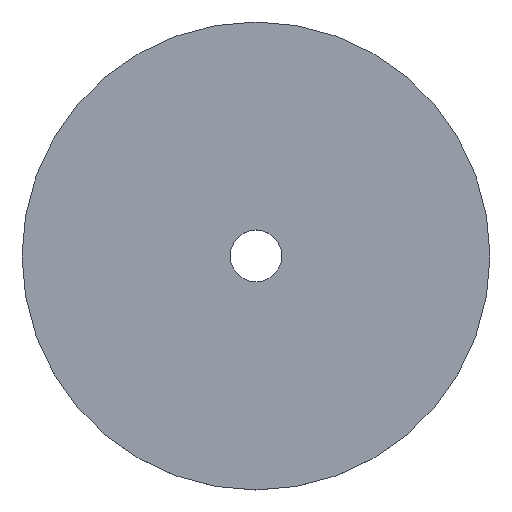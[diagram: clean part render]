
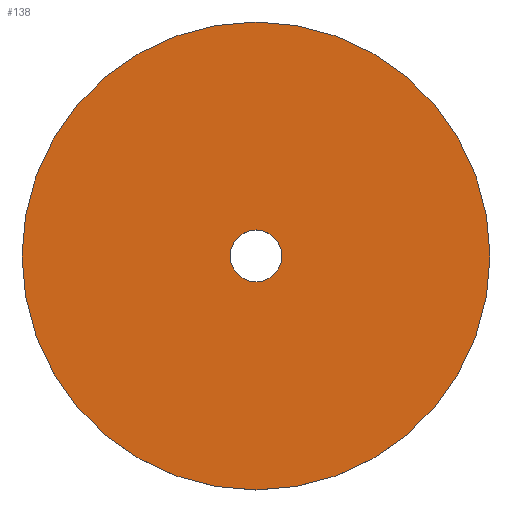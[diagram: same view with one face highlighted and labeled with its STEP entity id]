
A CAD part, top view. The second image highlights one B-rep face of the part: STEP entity #138.
In plain terms, the highlighted planar face has unit normal (0, 0, 1).
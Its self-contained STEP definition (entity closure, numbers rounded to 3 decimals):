
#1 = EDGE_LOOP ( 'NONE', ( #142, #52 ) ) ;
#7 = CIRCLE ( 'NONE', #61, 13.889 ) ;
#11 = EDGE_LOOP ( 'NONE', ( #170, #67 ) ) ;
#19 = VERTEX_POINT ( 'NONE', #70 ) ;
#29 = DIRECTION ( 'NONE',  ( 0., 0., 1. ) ) ;
#31 = AXIS2_PLACEMENT_3D ( 'NONE', #56, #139, #59 ) ;
#39 = CIRCLE ( 'NONE', #92, 125. ) ;
#40 = EDGE_CURVE ( 'NONE', #161, #82, #199, .T. ) ;
#42 = VERTEX_POINT ( 'NONE', #160 ) ;
#43 = CIRCLE ( 'NONE', #104, 125. ) ;
#45 = CARTESIAN_POINT ( 'NONE',  ( 0., 0., 8. ) ) ;
#51 = AXIS2_PLACEMENT_3D ( 'NONE', #102, #132, #101 ) ;
#52 = ORIENTED_EDGE ( 'NONE', *, *, #163, .T. ) ;
#55 = FACE_OUTER_BOUND ( 'NONE', #1, .T. ) ;
#56 = CARTESIAN_POINT ( 'NONE',  ( 0., 0., 8. ) ) ;
#59 = DIRECTION ( 'NONE',  ( 1., 0., 0. ) ) ;
#61 = AXIS2_PLACEMENT_3D ( 'NONE', #90, #157, #159 ) ;
#66 = DIRECTION ( 'NONE',  ( 1., 0., 0. ) ) ;
#67 = ORIENTED_EDGE ( 'NONE', *, *, #84, .F. ) ;
#70 = CARTESIAN_POINT ( 'NONE',  ( -125., 0., 8. ) ) ;
#82 = VERTEX_POINT ( 'NONE', #112 ) ;
#84 = EDGE_CURVE ( 'NONE', #82, #161, #7, .T. ) ;
#90 = CARTESIAN_POINT ( 'NONE',  ( 0., 0., 8. ) ) ;
#92 = AXIS2_PLACEMENT_3D ( 'NONE', #45, #29, #66 ) ;
#101 = DIRECTION ( 'NONE',  ( 1., 0., 0. ) ) ;
#102 = CARTESIAN_POINT ( 'NONE',  ( 0., 0., 8. ) ) ;
#104 = AXIS2_PLACEMENT_3D ( 'NONE', #140, #109, #185 ) ;
#109 = DIRECTION ( 'NONE',  ( 0., 0., 1. ) ) ;
#112 = CARTESIAN_POINT ( 'NONE',  ( 13.889, 0., 8. ) ) ;
#116 = PLANE ( 'NONE',  #31 ) ;
#132 = DIRECTION ( 'NONE',  ( 0., 0., 1. ) ) ;
#135 = FACE_BOUND ( 'NONE', #11, .T. ) ;
#138 = ADVANCED_FACE ( 'NONE', ( #55, #135 ), #116, .T. ) ;
#139 = DIRECTION ( 'NONE',  ( 0., 0., 1. ) ) ;
#140 = CARTESIAN_POINT ( 'NONE',  ( 0., 0., 8. ) ) ;
#142 = ORIENTED_EDGE ( 'NONE', *, *, #194, .T. ) ;
#157 = DIRECTION ( 'NONE',  ( 0., 0., 1. ) ) ;
#159 = DIRECTION ( 'NONE',  ( 1., 0., 0. ) ) ;
#160 = CARTESIAN_POINT ( 'NONE',  ( 125., 0., 8. ) ) ;
#161 = VERTEX_POINT ( 'NONE', #181 ) ;
#163 = EDGE_CURVE ( 'NONE', #42, #19, #39, .T. ) ;
#170 = ORIENTED_EDGE ( 'NONE', *, *, #40, .F. ) ;
#181 = CARTESIAN_POINT ( 'NONE',  ( -13.889, 0., 8. ) ) ;
#185 = DIRECTION ( 'NONE',  ( 1., 0., 0. ) ) ;
#194 = EDGE_CURVE ( 'NONE', #19, #42, #43, .T. ) ;
#199 = CIRCLE ( 'NONE', #51, 13.889 ) ;
